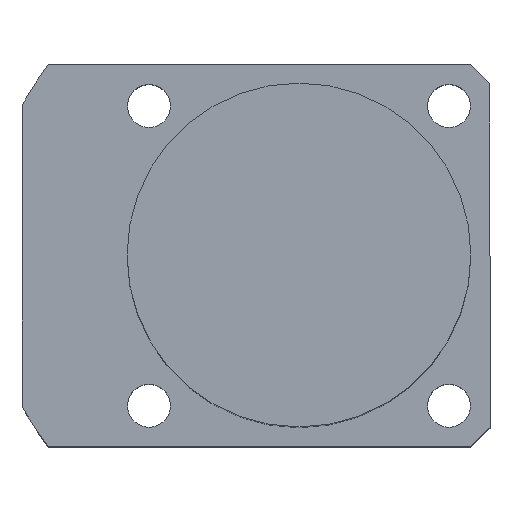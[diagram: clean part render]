
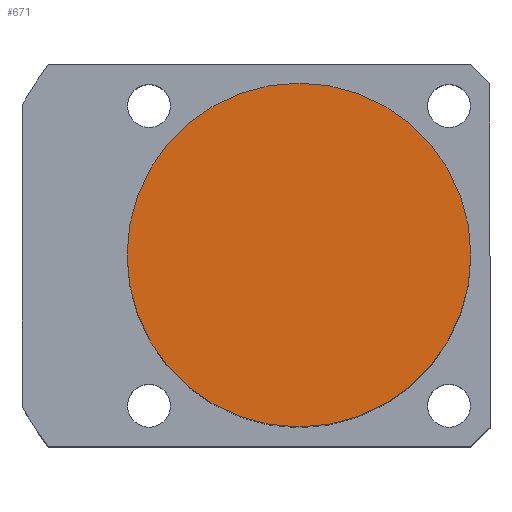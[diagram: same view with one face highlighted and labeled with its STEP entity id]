
A CAD part, top view. The second image highlights one B-rep face of the part: STEP entity #671.
In plain terms, the highlighted planar face has unit normal (0, 0, 1).
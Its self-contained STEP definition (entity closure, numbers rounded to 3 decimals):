
#71 = FACE_OUTER_BOUND ( 'NONE', #1067, .T. ) ;
#125 = DIRECTION ( 'NONE',  ( 1., 0., 0. ) ) ;
#126 = AXIS2_PLACEMENT_3D ( 'NONE', #954, #457, #1607 ) ;
#457 = DIRECTION ( 'NONE',  ( 0., 0., 1. ) ) ;
#671 = ADVANCED_FACE ( 'NONE', ( #71 ), #1120, .T. ) ;
#723 = EDGE_CURVE ( 'NONE', #1027, #1747, #1808, .T. ) ;
#916 = CARTESIAN_POINT ( 'NONE',  ( -18., 0., 58.5 ) ) ;
#954 = CARTESIAN_POINT ( 'NONE',  ( 0., 0., 58.5 ) ) ;
#1015 = AXIS2_PLACEMENT_3D ( 'NONE', #1146, #1480, #1651 ) ;
#1027 = VERTEX_POINT ( 'NONE', #916 ) ;
#1067 = EDGE_LOOP ( 'NONE', ( #1085, #1377 ) ) ;
#1085 = ORIENTED_EDGE ( 'NONE', *, *, #723, .T. ) ;
#1120 = PLANE ( 'NONE',  #126 ) ;
#1146 = CARTESIAN_POINT ( 'NONE',  ( 0., 0., 58.5 ) ) ;
#1180 = CIRCLE ( 'NONE', #1015, 18. ) ;
#1197 = AXIS2_PLACEMENT_3D ( 'NONE', #1777, #2094, #125 ) ;
#1377 = ORIENTED_EDGE ( 'NONE', *, *, #2054, .T. ) ;
#1480 = DIRECTION ( 'NONE',  ( 0., 0., 1. ) ) ;
#1607 = DIRECTION ( 'NONE',  ( 1., 0., 0. ) ) ;
#1651 = DIRECTION ( 'NONE',  ( 1., 0., 0. ) ) ;
#1702 = CARTESIAN_POINT ( 'NONE',  ( 18., 0., 58.5 ) ) ;
#1747 = VERTEX_POINT ( 'NONE', #1702 ) ;
#1777 = CARTESIAN_POINT ( 'NONE',  ( 0., 0., 58.5 ) ) ;
#1808 = CIRCLE ( 'NONE', #1197, 18. ) ;
#2054 = EDGE_CURVE ( 'NONE', #1747, #1027, #1180, .T. ) ;
#2094 = DIRECTION ( 'NONE',  ( 0., 0., 1. ) ) ;
